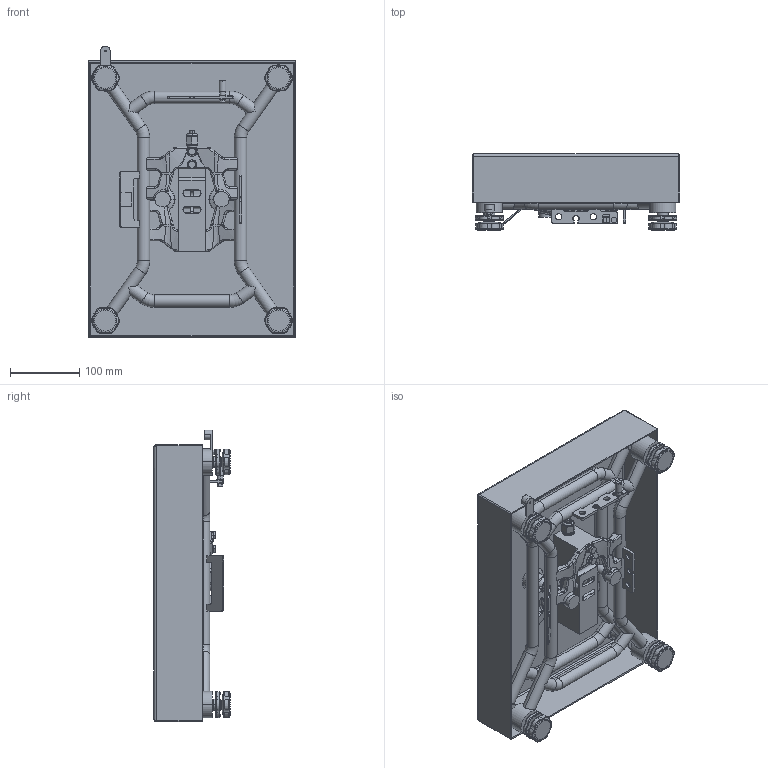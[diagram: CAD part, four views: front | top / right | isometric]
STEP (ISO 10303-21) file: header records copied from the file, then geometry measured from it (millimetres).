
FILE_DESCRIPTION((''),'2;1');
FILE_NAME('PBA639_PBD659_BB_SIZE','2022-03-16T09:59:12',('sun-135'),(''),'CREO PARAMETRIC BY PTC INC, 2018260','CREO PARAMETRIC BY PTC INC, 2018260','');
FILE_SCHEMA(('CONFIG_CONTROL_DESIGN'));
Products named in the file (1): PBA639_PBD659_BB_SIZE
Bounding box: 300 x 110 x 421 mm (x, y, z)
Volume: 1361177.7 mm3; surface area: 814920.4 mm2
Topology: 6 solids, 91 shells, 2472 faces, 5700 edges, 3362 vertices
Faces by surface type: cylinder 702, bspline 524, cone 497, plane 479, torus 270
Entity records: 96956 total; most frequent: CARTESIAN_POINT 46173, ORIENTED_EDGE 11204, DIRECTION 9452, EDGE_CURVE 5666, AXIS2_PLACEMENT_3D 3903, VERTEX_POINT 3362, EDGE_LOOP 2610, FACE_OUTER_BOUND 2472
